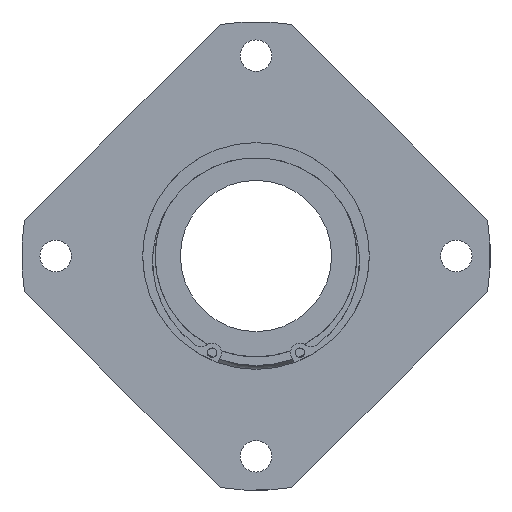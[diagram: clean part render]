
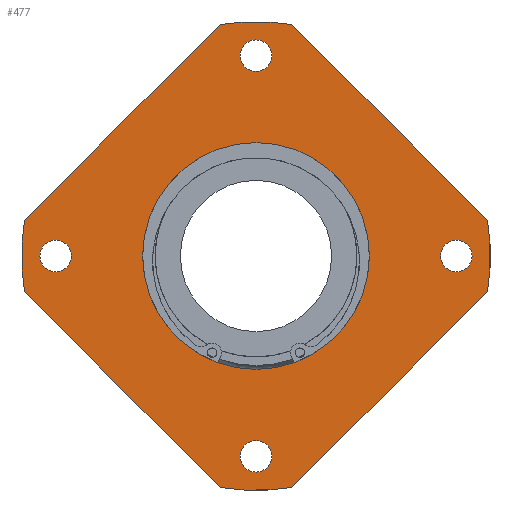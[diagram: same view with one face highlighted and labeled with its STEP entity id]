
A CAD part, left-side view. The second image highlights one B-rep face of the part: STEP entity #477.
In plain terms, the highlighted planar face has unit normal (-1, 0, 0).
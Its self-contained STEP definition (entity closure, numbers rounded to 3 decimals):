
#60=CARTESIAN_POINT('',(0.0,53.,-4.188));
#61=VERTEX_POINT('',#60);
#62=CARTESIAN_POINT('',(0.0,53.,0.));
#63=DIRECTION('',(1.0,0.0,0.0));
#64=DIRECTION('',(0.0,0.0,-1.0));
#65=AXIS2_PLACEMENT_3D('',#62,#63,#64);
#66=CIRCLE('',#65,4.188);
#67=EDGE_CURVE('',#61,#61,#66,.T.);
#88=CARTESIAN_POINT('',(0.0,-4.188,-53.));
#89=VERTEX_POINT('',#88);
#90=CARTESIAN_POINT('',(0.0,0.,-53.));
#91=DIRECTION('',(1.0,0.0,0.0));
#92=DIRECTION('',(0.0,-1.0,0.0));
#93=AXIS2_PLACEMENT_3D('',#90,#91,#92);
#94=CIRCLE('',#93,4.188);
#95=EDGE_CURVE('',#89,#89,#94,.T.);
#116=CARTESIAN_POINT('',(0.0,-53.,4.188));
#117=VERTEX_POINT('',#116);
#118=CARTESIAN_POINT('',(0.0,-53.,0.));
#119=DIRECTION('',(1.0,0.0,0.0));
#120=DIRECTION('',(0.0,0.0,1.0));
#121=AXIS2_PLACEMENT_3D('',#118,#119,#120);
#122=CIRCLE('',#121,4.188);
#123=EDGE_CURVE('',#117,#117,#122,.T.);
#144=CARTESIAN_POINT('',(0.0,4.188,53.));
#145=VERTEX_POINT('',#144);
#146=CARTESIAN_POINT('',(0.0,0.0,53.));
#147=DIRECTION('',(1.0,0.0,0.0));
#148=DIRECTION('',(0.0,1.0,0.0));
#149=AXIS2_PLACEMENT_3D('',#146,#147,#148);
#150=CIRCLE('',#149,4.188);
#151=EDGE_CURVE('',#145,#145,#150,.T.);
#171=CARTESIAN_POINT('',(0.0,-9.432,61.278));
#172=VERTEX_POINT('',#171);
#179=CARTESIAN_POINT('',(0.0,-61.278,9.432));
#180=VERTEX_POINT('',#179);
#181=CARTESIAN_POINT('',(0.0,-61.278,9.432));
#182=DIRECTION('',(0.0,0.707,0.707));
#183=VECTOR('',#182,73.321);
#184=LINE('',#181,#183);
#185=EDGE_CURVE('',#180,#172,#184,.T.);
#211=CARTESIAN_POINT('',(0.0,9.432,-61.278));
#212=VERTEX_POINT('',#211);
#219=CARTESIAN_POINT('',(0.0,61.278,-9.432));
#220=VERTEX_POINT('',#219);
#221=CARTESIAN_POINT('',(0.0,61.278,-9.432));
#222=DIRECTION('',(0.0,-0.707,-0.707));
#223=VECTOR('',#222,73.321);
#224=LINE('',#221,#223);
#225=EDGE_CURVE('',#220,#212,#224,.T.);
#251=CARTESIAN_POINT('',(0.0,61.278,9.432));
#252=VERTEX_POINT('',#251);
#259=CARTESIAN_POINT('',(0.0,9.432,61.278));
#260=VERTEX_POINT('',#259);
#261=CARTESIAN_POINT('',(0.0,9.432,61.278));
#262=DIRECTION('',(0.0,0.707,-0.707));
#263=VECTOR('',#262,73.321);
#264=LINE('',#261,#263);
#265=EDGE_CURVE('',#260,#252,#264,.T.);
#291=CARTESIAN_POINT('',(0.0,-61.278,-9.432));
#292=VERTEX_POINT('',#291);
#299=CARTESIAN_POINT('',(0.0,-9.432,-61.278));
#300=VERTEX_POINT('',#299);
#301=CARTESIAN_POINT('',(0.0,-9.432,-61.278));
#302=DIRECTION('',(0.0,-0.707,0.707));
#303=VECTOR('',#302,73.321);
#304=LINE('',#301,#303);
#305=EDGE_CURVE('',#300,#292,#304,.T.);
#387=CARTESIAN_POINT('',(0.0,0.0,0.0));
#388=DIRECTION('',(-1.0,0.0,0.0));
#389=DIRECTION('',(0.0,0.0,1.0));
#390=AXIS2_PLACEMENT_3D('',#387,#388,#389);
#391=CIRCLE('',#390,62.0);
#392=EDGE_CURVE('',#212,#300,#391,.T.);
#403=CARTESIAN_POINT('',(0.0,0.0,0.0));
#404=DIRECTION('',(-1.0,0.0,0.0));
#405=DIRECTION('',(0.0,0.0,1.0));
#406=AXIS2_PLACEMENT_3D('',#403,#404,#405);
#407=CIRCLE('',#406,62.0);
#408=EDGE_CURVE('',#252,#220,#407,.T.);
#423=CARTESIAN_POINT('',(0.0,0.0,0.0));
#424=DIRECTION('',(-1.0,0.0,0.0));
#425=DIRECTION('',(0.0,0.0,1.0));
#426=AXIS2_PLACEMENT_3D('',#423,#424,#425);
#427=CIRCLE('',#426,62.0);
#428=EDGE_CURVE('',#172,#260,#427,.T.);
#433=CARTESIAN_POINT('',(0.0,0.0,46.0));
#434=DIRECTION('',(-1.0,0.0,0.0));
#435=DIRECTION('',(0.0,0.0,1.0));
#436=AXIS2_PLACEMENT_3D('',#433,#434,#435);
#437=PLANE('',#436);
#438=ORIENTED_EDGE('',*,*,#185,.T.);
#439=ORIENTED_EDGE('',*,*,#428,.T.);
#440=ORIENTED_EDGE('',*,*,#265,.T.);
#441=ORIENTED_EDGE('',*,*,#408,.T.);
#442=ORIENTED_EDGE('',*,*,#225,.T.);
#443=ORIENTED_EDGE('',*,*,#392,.T.);
#444=ORIENTED_EDGE('',*,*,#305,.T.);
#445=CARTESIAN_POINT('',(0.0,0.0,0.0));
#446=DIRECTION('',(-1.0,0.0,0.0));
#447=DIRECTION('',(0.0,0.0,1.0));
#448=AXIS2_PLACEMENT_3D('',#445,#446,#447);
#449=CIRCLE('',#448,62.0);
#450=EDGE_CURVE('',#292,#180,#449,.T.);
#451=ORIENTED_EDGE('',*,*,#450,.T.);
#452=EDGE_LOOP('',(#438,#439,#440,#441,#442,#443,#444,#451));
#453=FACE_OUTER_BOUND('',#452,.T.);
#454=ORIENTED_EDGE('',*,*,#67,.T.);
#455=EDGE_LOOP('',(#454));
#456=FACE_BOUND('',#455,.T.);
#457=ORIENTED_EDGE('',*,*,#95,.T.);
#458=EDGE_LOOP('',(#457));
#459=FACE_BOUND('',#458,.T.);
#460=ORIENTED_EDGE('',*,*,#123,.T.);
#461=EDGE_LOOP('',(#460));
#462=FACE_BOUND('',#461,.T.);
#463=ORIENTED_EDGE('',*,*,#151,.T.);
#464=EDGE_LOOP('',(#463));
#465=FACE_BOUND('',#464,.T.);
#466=CARTESIAN_POINT('',(0.0,0.0,30.0));
#467=VERTEX_POINT('',#466);
#468=CARTESIAN_POINT('',(0.0,0.0,0.0));
#469=DIRECTION('',(-1.0,0.0,0.0));
#470=DIRECTION('',(0.0,0.0,1.0));
#471=AXIS2_PLACEMENT_3D('',#468,#469,#470);
#472=CIRCLE('',#471,30.0);
#473=EDGE_CURVE('',#467,#467,#472,.T.);
#474=ORIENTED_EDGE('',*,*,#473,.F.);
#475=EDGE_LOOP('',(#474));
#476=FACE_BOUND('',#475,.T.);
#477=ADVANCED_FACE('',(#453,#456,#459,#462,#465,#476),#437,.T.);
